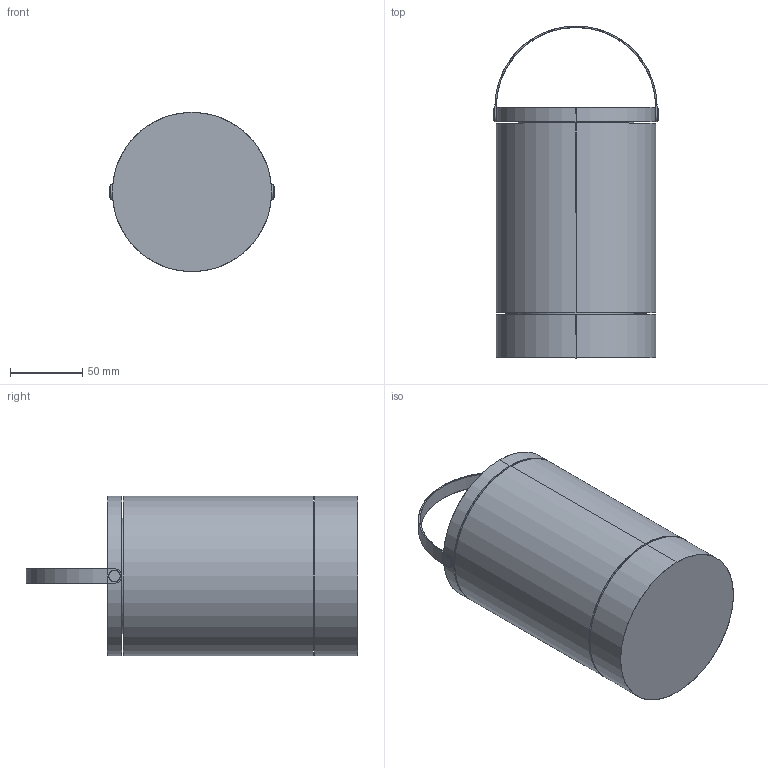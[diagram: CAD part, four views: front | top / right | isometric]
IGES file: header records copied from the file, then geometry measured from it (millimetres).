
Start section: SolidWorks IGES file using analytic representation for surfaces
Global section: file name: C:\Users\danielet\Desktop\3D CARLOS\KEKE-S8151-3D\KEKE-S8151-3D.IGS; native system: SolidWorks 2018; preprocessor: SolidWorks 2018; author: danielet; date: 220131.093353; units: millimetre
Bounding box: 114 x 229 x 110 mm (x, y, z)
Surface area: 100959.7 mm2 (no closed solid volume)
Topology: 0 solids, 0 shells, 38 faces, 1328 edges, 1328 vertices
Faces by surface type: revolution 22, bspline 16
